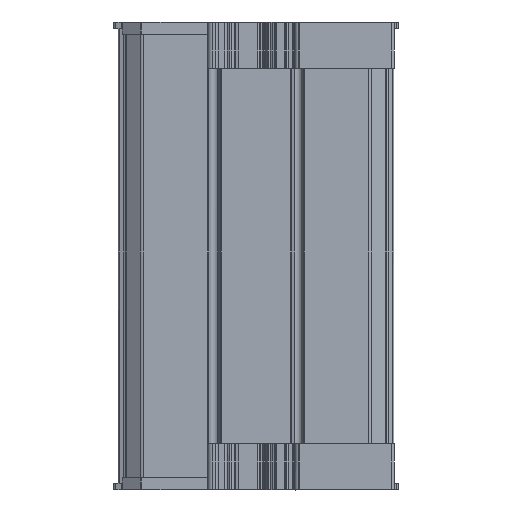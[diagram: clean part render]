
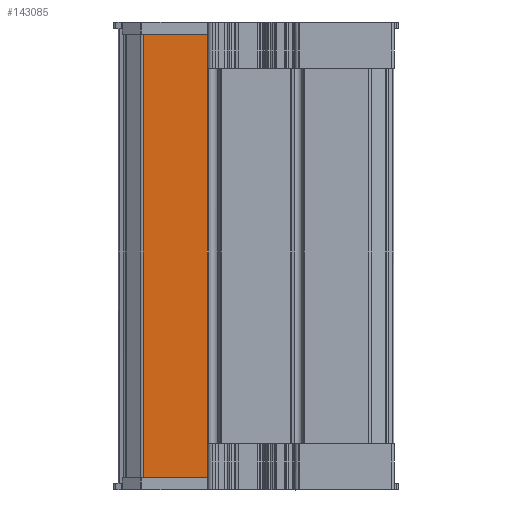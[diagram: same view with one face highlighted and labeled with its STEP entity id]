
A CAD part, front view. The second image highlights one B-rep face of the part: STEP entity #143085.
In plain terms, the highlighted planar face has unit normal (0, -1, 0).
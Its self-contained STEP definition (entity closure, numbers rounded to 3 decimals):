
#954 = ORIENTED_EDGE ( 'NONE', *, *, #145692, .F. ) ;
#4067 = DIRECTION ( 'NONE',  ( 0., 0., 1. ) ) ;
#8868 = AXIS2_PLACEMENT_3D ( 'NONE', #87648, #15457, #64091 ) ;
#13084 = ORIENTED_EDGE ( 'NONE', *, *, #77602, .T. ) ;
#14107 = CARTESIAN_POINT ( 'NONE',  ( 10.849, 13.775, -200. ) ) ;
#15457 = DIRECTION ( 'NONE',  ( 0., 1., 0. ) ) ;
#17407 = CARTESIAN_POINT ( 'NONE',  ( 10.849, 13.775, -70.2 ) ) ;
#17797 = PLANE ( 'NONE',  #8868 ) ;
#19721 = LINE ( 'NONE', #17407, #152315 ) ;
#24406 = B_SPLINE_CURVE_WITH_KNOTS ( 'NONE', 3,
 ( #38898, #147107, #66339, #100893 ),
 .UNSPECIFIED., .F., .F.,
 ( 4, 4 ),
 ( 0., 1. ),
 .UNSPECIFIED. ) ;
#38898 = CARTESIAN_POINT ( 'NONE',  ( 38.343, 13.775, -4. ) ) ;
#39462 = VERTEX_POINT ( 'NONE', #122372 ) ;
#49930 = CARTESIAN_POINT ( 'NONE',  ( 38.343, 13.775, -200. ) ) ;
#50763 = ORIENTED_EDGE ( 'NONE', *, *, #59856, .F. ) ;
#57628 = CARTESIAN_POINT ( 'NONE',  ( 10.849, 13.775, -4. ) ) ;
#59856 = EDGE_CURVE ( 'NONE', #39462, #83084, #115884, .T. ) ;
#64091 = DIRECTION ( 'NONE',  ( 0., 0., 1. ) ) ;
#66339 = CARTESIAN_POINT ( 'NONE',  ( 20.014, 13.775, -4. ) ) ;
#67235 = CARTESIAN_POINT ( 'NONE',  ( 38.343, 13.775, 29.8 ) ) ;
#68321 = ORIENTED_EDGE ( 'NONE', *, *, #94287, .F. ) ;
#69561 = DIRECTION ( 'NONE',  ( 0., 0., -1. ) ) ;
#77429 = FACE_OUTER_BOUND ( 'NONE', #104332, .T. ) ;
#77602 = EDGE_CURVE ( 'NONE', #39462, #133016, #24406, .T. ) ;
#83084 = VERTEX_POINT ( 'NONE', #104802 ) ;
#86024 = CARTESIAN_POINT ( 'NONE',  ( 10.849, 13.775, -200. ) ) ;
#87648 = CARTESIAN_POINT ( 'NONE',  ( 24.596, 13.775, -70.2 ) ) ;
#94287 = EDGE_CURVE ( 'NONE', #103882, #133016, #19721, .T. ) ;
#99359 = CARTESIAN_POINT ( 'NONE',  ( 29.178, 13.775, -200. ) ) ;
#100893 = CARTESIAN_POINT ( 'NONE',  ( 10.849, 13.775, -4. ) ) ;
#103882 = VERTEX_POINT ( 'NONE', #14107 ) ;
#104332 = EDGE_LOOP ( 'NONE', ( #68321, #954, #50763, #13084 ) ) ;
#104802 = CARTESIAN_POINT ( 'NONE',  ( 38.343, 13.775, -200. ) ) ;
#106490 = VECTOR ( 'NONE', #69561, 1000. ) ;
#115884 = LINE ( 'NONE', #67235, #106490 ) ;
#118669 = B_SPLINE_CURVE_WITH_KNOTS ( 'NONE', 3,
 ( #49930, #99359, #135401, #86024 ),
 .UNSPECIFIED., .F., .F.,
 ( 4, 4 ),
 ( 0., 1. ),
 .UNSPECIFIED. ) ;
#122372 = CARTESIAN_POINT ( 'NONE',  ( 38.343, 13.775, -4. ) ) ;
#133016 = VERTEX_POINT ( 'NONE', #57628 ) ;
#135401 = CARTESIAN_POINT ( 'NONE',  ( 20.014, 13.775, -200. ) ) ;
#143085 = ADVANCED_FACE ( 'NONE', ( #77429 ), #17797, .F. ) ;
#145692 = EDGE_CURVE ( 'NONE', #83084, #103882, #118669, .T. ) ;
#147107 = CARTESIAN_POINT ( 'NONE',  ( 29.178, 13.775, -4. ) ) ;
#152315 = VECTOR ( 'NONE', #4067, 1000. ) ;
